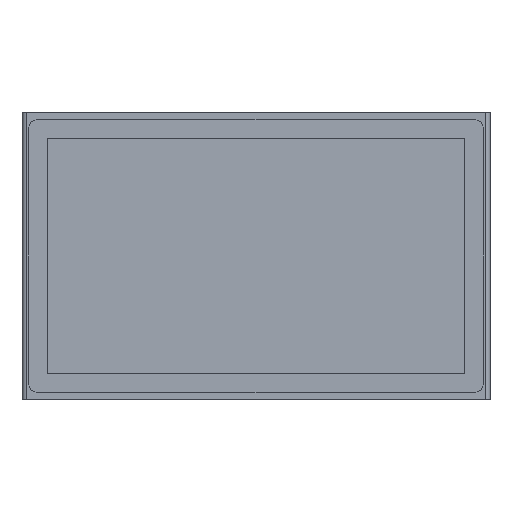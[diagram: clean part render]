
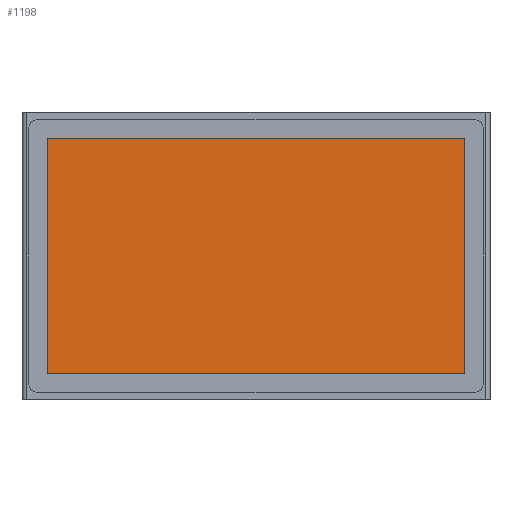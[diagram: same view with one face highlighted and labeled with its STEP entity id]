
A CAD part, left-side view. The second image highlights one B-rep face of the part: STEP entity #1198.
In plain terms, the highlighted planar face has unit normal (-1, 0, 0).
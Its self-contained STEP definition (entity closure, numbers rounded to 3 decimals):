
#693=DIRECTION('',(0.,1.,0.));
#694=VECTOR('',#693,477.84);
#695=CARTESIAN_POINT('',(0.2,-238.92,-134.655));
#696=LINE('',#695,#694);
#697=DIRECTION('',(0.,0.,1.));
#698=VECTOR('',#697,269.31);
#699=CARTESIAN_POINT('',(0.2,238.92,-134.655));
#700=LINE('',#699,#698);
#701=DIRECTION('',(0.,-1.,0.));
#702=VECTOR('',#701,477.84);
#703=CARTESIAN_POINT('',(0.2,238.92,134.655));
#704=LINE('',#703,#702);
#705=DIRECTION('',(0.,0.,-1.));
#706=VECTOR('',#705,269.31);
#707=CARTESIAN_POINT('',(0.2,-238.92,134.655));
#708=LINE('',#707,#706);
#921=CARTESIAN_POINT('',(0.2,238.92,-134.655));
#922=VERTEX_POINT('',#921);
#923=CARTESIAN_POINT('',(0.2,-238.92,-134.655));
#924=VERTEX_POINT('',#923);
#925=CARTESIAN_POINT('',(0.2,-238.92,134.655));
#926=VERTEX_POINT('',#925);
#927=CARTESIAN_POINT('',(0.2,238.92,134.655));
#928=VERTEX_POINT('',#927);
#1187=CARTESIAN_POINT('',(0.2,0.,0.));
#1188=DIRECTION('',(1.,0.,0.));
#1189=DIRECTION('',(0.,-1.,0.));
#1190=AXIS2_PLACEMENT_3D('',#1187,#1188,#1189);
#1191=PLANE('',#1190);
#1192=ORIENTED_EDGE('',*,*,#1139,.T.);
#1193=ORIENTED_EDGE('',*,*,#1154,.T.);
#1194=ORIENTED_EDGE('',*,*,#1168,.T.);
#1195=ORIENTED_EDGE('',*,*,#1181,.T.);
#1196=EDGE_LOOP('',(#1192,#1193,#1194,#1195));
#1197=FACE_OUTER_BOUND('',#1196,.F.);
#1198=ADVANCED_FACE('',(#1197),#1191,.F.);
#1139=EDGE_CURVE('',#924,#922,#696,.T.);
#1154=EDGE_CURVE('',#922,#928,#700,.T.);
#1168=EDGE_CURVE('',#928,#926,#704,.T.);
#1181=EDGE_CURVE('',#926,#924,#708,.T.);
